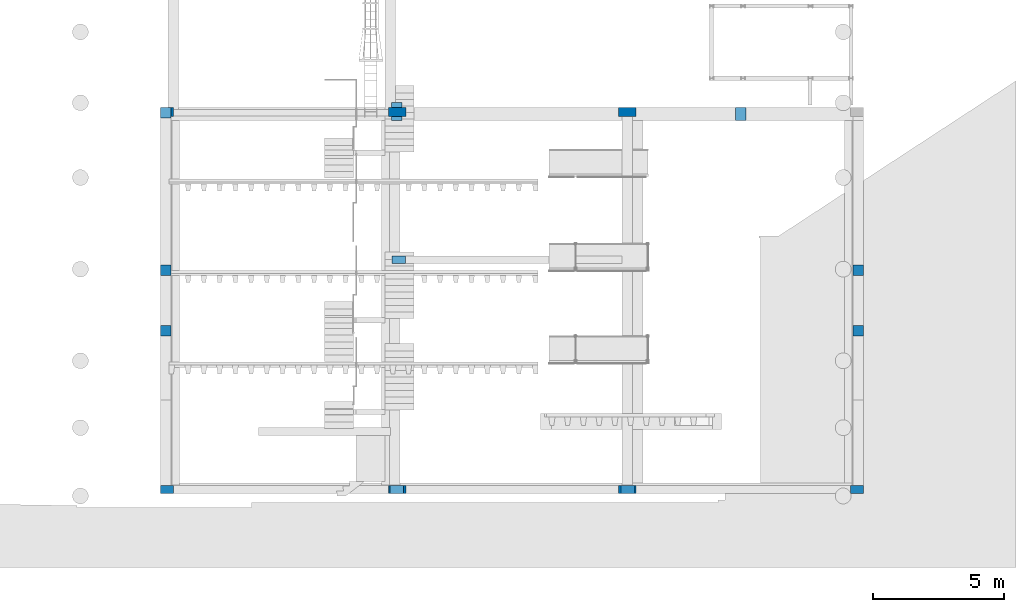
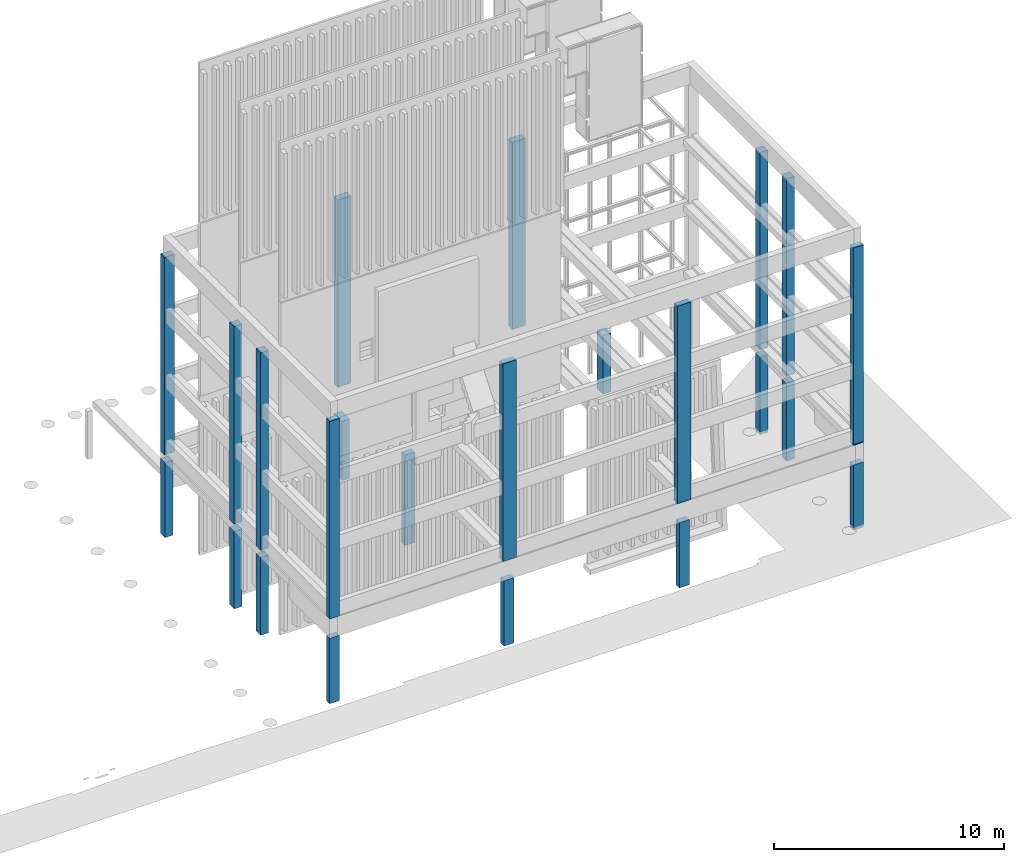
# One storey, part 1 of 15: 25 columns.
"""IFC2X3 building model written with IfcOpenShell, lengths in metres."""

from ifc_helpers import new_model, entity, si_unit, converted_unit, derived_unit, money_unit, direction, frame, frame_2d, origin_with_axes, place, context, subcontext, project, spatial, rectangle, extrude, material, type_object, element, save


model = new_model("IFC2X3")

# Units and contexts
model_context = context("Model", 3, precision=1e-05, world=origin_with_axes(), true_north=direction((0.0, 1.0)))
body_context = subcontext(model_context, "Body", "Model", "MODEL_VIEW", scale=1.0)
ifc_project = project(units=[si_unit("LENGTHUNIT", "METRE"), si_unit("AREAUNIT", "SQUARE_METRE"), si_unit("VOLUMEUNIT", "CUBIC_METRE"), si_unit("ABSORBEDDOSEUNIT", "GRAY"), si_unit("AMOUNTOFSUBSTANCEUNIT", "MOLE"), si_unit("DOSEEQUIVALENTUNIT", "SIEVERT"), si_unit("ELECTRICCAPACITANCEUNIT", "FARAD"), si_unit("ELECTRICCHARGEUNIT", "COULOMB"), si_unit("ELECTRICCONDUCTANCEUNIT", "SIEMENS"), si_unit("ELECTRICCURRENTUNIT", "AMPERE"), si_unit("ELECTRICRESISTANCEUNIT", "OHM"), si_unit("ELECTRICVOLTAGEUNIT", "VOLT"), si_unit("ENERGYUNIT", "JOULE"), si_unit("FORCEUNIT", "NEWTON"), si_unit("FREQUENCYUNIT", "HERTZ"), si_unit("ILLUMINANCEUNIT", "LUX"), si_unit("INDUCTANCEUNIT", "HENRY"), si_unit("LUMINOUSFLUXUNIT", "LUMEN"), si_unit("LUMINOUSINTENSITYUNIT", "CANDELA"), si_unit("MAGNETICFLUXDENSITYUNIT", "TESLA"), si_unit("MAGNETICFLUXUNIT", "WEBER"), si_unit("MASSUNIT", "GRAM"), converted_unit("PLANEANGLEUNIT", "degree", entity("IfcReal", 0.0174532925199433), si_unit("PLANEANGLEUNIT", "RADIAN"), dimensions=[0, 0, 0, 0, 0, 0, 0]), si_unit("POWERUNIT", "WATT"), si_unit("PRESSUREUNIT", "PASCAL"), si_unit("RADIOACTIVITYUNIT", "BECQUEREL"), si_unit("SOLIDANGLEUNIT", "STERADIAN"), si_unit("THERMODYNAMICTEMPERATUREUNIT", "KELVIN"), si_unit("TIMEUNIT", "SECOND"), derived_unit("ACCELERATIONUNIT", [(si_unit("LENGTHUNIT", "METRE"), 1), (si_unit("TIMEUNIT", "SECOND"), -2)]), derived_unit("ANGULARVELOCITYUNIT", [(converted_unit("PLANEANGLEUNIT", "degree", entity("IfcReal", 0.0174532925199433), si_unit("PLANEANGLEUNIT", "RADIAN"), dimensions=[0, 0, 0, 0, 0, 0, 0]), 1), (si_unit("TIMEUNIT", "SECOND"), -1)]), derived_unit("CURVATUREUNIT", [(converted_unit("PLANEANGLEUNIT", "degree", entity("IfcReal", 0.0174532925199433), si_unit("PLANEANGLEUNIT", "RADIAN"), dimensions=[0, 0, 0, 0, 0, 0, 0]), 1), (si_unit("LENGTHUNIT", "METRE"), -1)]), derived_unit("DYNAMICVISCOSITYUNIT", [(si_unit("PRESSUREUNIT", "PASCAL"), 1), (si_unit("TIMEUNIT", "SECOND"), 1)]), derived_unit("HEATFLUXDENSITYUNIT", [(si_unit("POWERUNIT", "WATT"), 1), (si_unit("LENGTHUNIT", "METRE"), -2)]), derived_unit("HEATINGVALUEUNIT", [(si_unit("ENERGYUNIT", "JOULE"), 1), (si_unit("MASSUNIT", "GRAM"), -1)]), derived_unit("INTEGERCOUNTRATEUNIT", [(si_unit("TIMEUNIT", "SECOND"), -1)]), derived_unit("IONCONCENTRATIONUNIT", [(si_unit("MASSUNIT", "GRAM"), 1), (si_unit("VOLUMEUNIT", "CUBIC_METRE"), -1)]), derived_unit("ISOTHERMALMOISTURECAPACITYUNIT", [(si_unit("VOLUMEUNIT", "CUBIC_METRE"), 1), (si_unit("MASSUNIT", "GRAM"), -1)]), derived_unit("KINEMATICVISCOSITYUNIT", [(si_unit("AREAUNIT", "SQUARE_METRE"), 1), (si_unit("TIMEUNIT", "SECOND"), -1)]), derived_unit("LINEARFORCEUNIT", [(si_unit("FORCEUNIT", "NEWTON"), 1), (si_unit("LENGTHUNIT", "METRE"), -1)]), derived_unit("LINEARMOMENTUNIT", [(si_unit("FORCEUNIT", "NEWTON"), 1), (si_unit("LENGTHUNIT", "METRE"), -1)]), derived_unit("LINEARSTIFFNESSUNIT", [(si_unit("FORCEUNIT", "NEWTON"), 1), (si_unit("LENGTHUNIT", "METRE"), -1)]), derived_unit("LINEARVELOCITYUNIT", [(si_unit("LENGTHUNIT", "METRE"), 1), (si_unit("TIMEUNIT", "SECOND"), -1)]), derived_unit("LUMINOUSINTENSITYDISTRIBUTIONUNIT", [(si_unit("LUMINOUSINTENSITYUNIT", "CANDELA"), 1), (si_unit("LUMINOUSFLUXUNIT", "LUMEN"), -1)]), derived_unit("MASSDENSITYUNIT", [(si_unit("MASSUNIT", "GRAM"), 1), (si_unit("VOLUMEUNIT", "CUBIC_METRE"), -1)]), derived_unit("MASSFLOWRATEUNIT", [(si_unit("MASSUNIT", "GRAM"), 1), (si_unit("TIMEUNIT", "SECOND"), -1)]), derived_unit("MASSPERLENGTHUNIT", [(si_unit("MASSUNIT", "GRAM"), 1), (si_unit("LENGTHUNIT", "METRE"), -1)]), derived_unit("MODULUSOFELASTICITYUNIT", [(si_unit("FORCEUNIT", "NEWTON"), 1), (si_unit("AREAUNIT", "SQUARE_METRE"), -1)]), derived_unit("MODULUSOFLINEARSUBGRADEREACTIONUNIT", [(si_unit("FORCEUNIT", "NEWTON"), 1), (si_unit("LENGTHUNIT", "METRE"), -2)]), derived_unit("MODULUSOFROTATIONALSUBGRADEREACTIONUNIT", [(si_unit("FORCEUNIT", "NEWTON"), 1), (si_unit("LENGTHUNIT", "METRE"), 1)]), derived_unit("MODULUSOFSUBGRADEREACTIONUNIT", [(si_unit("FORCEUNIT", "NEWTON"), 1), (si_unit("VOLUMEUNIT", "CUBIC_METRE"), -1)]), derived_unit("MOISTUREDIFFUSIVITYUNIT", [(si_unit("VOLUMEUNIT", "CUBIC_METRE"), 1), (si_unit("TIMEUNIT", "SECOND"), -1)]), derived_unit("MOLECULARWEIGHTUNIT", [(si_unit("MASSUNIT", "GRAM"), 1), (si_unit("AMOUNTOFSUBSTANCEUNIT", "MOLE"), -1)]), derived_unit("PLANARFORCEUNIT", [(si_unit("FORCEUNIT", "NEWTON"), 1), (si_unit("LENGTHUNIT", "METRE"), -2)]), derived_unit("ROTATIONALFREQUENCYUNIT", [(si_unit("TIMEUNIT", "SECOND"), -1)]), derived_unit("ROTATIONALMASSUNIT", [(si_unit("MASSUNIT", "GRAM"), 1), (si_unit("LENGTHUNIT", "METRE"), 2)]), derived_unit("ROTATIONALSTIFFNESSUNIT", [(si_unit("FORCEUNIT", "NEWTON"), 1), (si_unit("LENGTHUNIT", "METRE"), 1), (converted_unit("PLANEANGLEUNIT", "degree", entity("IfcReal", 0.0174532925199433), si_unit("PLANEANGLEUNIT", "RADIAN"), dimensions=[0, 0, 0, 0, 0, 0, 0]), -1)]), derived_unit("SECTIONAREAINTEGRALUNIT", [(si_unit("LENGTHUNIT", "METRE"), 5)]), derived_unit("SECTIONMODULUSUNIT", [(si_unit("LENGTHUNIT", "METRE"), 3)]), derived_unit("SHEARMODULUSUNIT", [(si_unit("FORCEUNIT", "NEWTON"), 1), (si_unit("AREAUNIT", "SQUARE_METRE"), -1)]), derived_unit("SOUNDPOWERUNIT", [(si_unit("ENERGYUNIT", "JOULE"), 1), (si_unit("TIMEUNIT", "SECOND"), -1)]), derived_unit("SPECIFICHEATCAPACITYUNIT", [(si_unit("FORCEUNIT", "NEWTON"), 1), (si_unit("MASSUNIT", "GRAM"), -1), (si_unit("THERMODYNAMICTEMPERATUREUNIT", "KELVIN"), -1)]), derived_unit("TEMPERATUREGRADIENTUNIT", [(si_unit("THERMODYNAMICTEMPERATUREUNIT", "KELVIN"), 1), (si_unit("LENGTHUNIT", "METRE"), -1)]), derived_unit("THERMALADMITTANCEUNIT", [(si_unit("POWERUNIT", "WATT"), 1), (si_unit("AREAUNIT", "SQUARE_METRE"), -1), (si_unit("THERMODYNAMICTEMPERATUREUNIT", "KELVIN"), -1)]), derived_unit("THERMALCONDUCTANCEUNIT", [(si_unit("POWERUNIT", "WATT"), 1), (si_unit("LENGTHUNIT", "METRE"), -1), (si_unit("THERMODYNAMICTEMPERATUREUNIT", "KELVIN"), -1)]), derived_unit("THERMALEXPANSIONCOEFFICIENTUNIT", [(si_unit("THERMODYNAMICTEMPERATUREUNIT", "KELVIN"), -1)]), derived_unit("THERMALRESISTANCEUNIT", [(si_unit("AREAUNIT", "SQUARE_METRE"), 1), (si_unit("POWERUNIT", "WATT"), -1)]), derived_unit("THERMALTRANSMITTANCEUNIT", [(si_unit("POWERUNIT", "WATT"), 1), (si_unit("AREAUNIT", "SQUARE_METRE"), -1), (si_unit("THERMODYNAMICTEMPERATUREUNIT", "KELVIN"), -1)]), derived_unit("TORQUEUNIT", [(si_unit("FORCEUNIT", "NEWTON"), 1), (si_unit("LENGTHUNIT", "METRE"), 1)]), derived_unit("VAPORPERMEABILITYUNIT", [(si_unit("MASSUNIT", "GRAM"), 1), (si_unit("TIMEUNIT", "SECOND"), -1)]), derived_unit("VOLUMETRICFLOWRATEUNIT", [(si_unit("VOLUMEUNIT", "CUBIC_METRE"), 1), (si_unit("TIMEUNIT", "SECOND"), -1)]), derived_unit("WARPINGCONSTANTUNIT", [(si_unit("LENGTHUNIT", "METRE"), 6)]), derived_unit("WARPINGMOMENTUNIT", [(si_unit("FORCEUNIT", "NEWTON"), 1), (si_unit("LENGTHUNIT", "METRE"), 2)]), money_unit("GBP")], contexts=[model_context])

# Site, building, storey
site_placement = place(None, origin_with_axes())
site = spatial("IfcSite", under=ifc_project, at=site_placement, Name="Site", CompositionType="ELEMENT")
building_placement = place(site_placement, origin_with_axes())
building = spatial("IfcBuilding", under=site, at=building_placement, Name="Building01", CompositionType="ELEMENT")
storey_placement = place(building_placement, origin_with_axes())
storey = spatial("IfcBuildingStorey", under=building, at=storey_placement, Name="GF", CompositionType="ELEMENT", Elevation=0.0)

# Columns
ifc_material = material(Name="A_BSUK_Columns_ReinforcedConcrete")
column_type_1 = type_object("IfcColumnType", Name="A-Columns-Concrete", PredefinedType="COLUMN")
column_1_placement = place(storey_placement, frame((0.1, 8.4, -0.145), z_axis=(0.0, 0.0, 1.0), x_axis=(1.0, 0.0, 0.0)))
element("IfcColumn", 1, at=column_1_placement, inside=storey, type_object=column_type_1, material=ifc_material, Name="A-Columns-Concrete", ObjectType="A-Columns-Concrete", context=body_context, shape_type="SweptSolid", body=[
    extrude(rectangle(XDim=0.4, YDim=0.4, at=frame_2d((0.2, 0.2), x_axis=(0.0, 1.0))), origin_with_axes(), (0.0, 0.0, 1.0), 4.115),
])
column_2_placement = place(storey_placement, frame((0.6, 14.45, 14.83), z_axis=(0.0, 0.0, -1.0), x_axis=(0.0, 1.0, 0.0)))
element("IfcColumn", 2, at=column_2_placement, inside=storey, type_object=column_type_1, material=ifc_material, Name="A-Columns-Concrete", ObjectType="A-Columns-Concrete", context=body_context, shape_type="SweptSolid", body=[
    extrude(rectangle(XDim=0.5, YDim=0.35, at=frame_2d((0.175, -0.25), x_axis=(0.0, -1.0))), origin_with_axes(), (0.0, 0.0, 1.0), 10.48),
])
for number, where, z_axis, x_axis, name in (
    (3, (0.1, 6.1, -0.145), (0.0, 0.0, 1.0), (1.0, 0.0, 0.0), "A-Columns-Concrete"),
    (4, (26.48, 6.1, -0.145), (0.0, 0.0, 1.0), (1.0, 0.0, 0.0), "A-Columns-Concrete"),
    (5, (26.48, 8.4, -0.145), (0.0, 0.0, 1.0), (1.0, 0.0, 0.0), "A-Columns-Concrete"),
):
    element("IfcColumn", number, at=place(storey_placement, frame(where, z_axis=z_axis, x_axis=x_axis)), inside=storey, type_object=column_type_1, material=ifc_material, Name=name, ObjectType="A-Columns-Concrete", context=body_context, shape_type="SweptSolid", body=[
        extrude(rectangle(XDim=0.4, YDim=0.4, at=frame_2d((0.2, 0.2), x_axis=(0.0, 1.0))), origin_with_axes(), (0.0, 0.0, 1.0), 4.115),
    ])
column_3_placement = place(storey_placement, frame((0.6, 0.1, 3.32), z_axis=(0.0, 0.0, -1.0), x_axis=(0.0, 1.0, 0.0)))
element("IfcColumn", 6, at=column_3_placement, inside=storey, type_object=column_type_1, material=ifc_material, Name="A-Columns-Concrete", ObjectType="A-Columns-Concrete", context=body_context, shape_type="SweptSolid", body=[
    extrude(rectangle(XDim=0.5, YDim=0.3, at=frame_2d((0.15, -0.25), x_axis=(0.0, -1.0))), origin_with_axes(), (0.0, 0.0, 1.0), 3.465),
])
for number, where, z_axis, x_axis, name in (
    (7, (9.46, 14.8, 4.9), (0.0, 0.0, 1.0), (-1.0, 0.0, 0.0), "A-Columns-Concrete"),
    (8, (18.22, 14.8, 4.9), (0.0, 0.0, 1.0), (-1.0, 0.0, 0.0), "A-Columns-Concrete"),
):
    element("IfcColumn", number, at=place(storey_placement, frame(where, z_axis=z_axis, x_axis=x_axis)), inside=storey, type_object=column_type_1, material=ifc_material, Name=name, ObjectType="A-Columns-Concrete", context=body_context, shape_type="SweptSolid", body=[
        extrude(rectangle(XDim=0.35, YDim=0.67, at=frame_2d((0.335, 0.175), x_axis=(0.0, 1.0))), origin_with_axes(), (0.0, 0.0, 1.0), 9.93),
    ])
for number, where, z_axis, x_axis, name in (
    (9, (18.15, 0.1, 3.32), (0.0, 0.0, -1.0), (0.0, 1.0, 0.0), "A-Columns-Concrete"),
    (10, (9.35, 0.1, 3.32), (0.0, 0.0, -1.0), (0.0, 1.0, 0.0), "A-Columns-Concrete"),
    (11, (26.88, 0.1, 3.32), (0.0, 0.0, -1.0), (0.0, 1.0, 0.0), "A-Columns-Concrete"),
):
    element("IfcColumn", number, at=place(storey_placement, frame(where, z_axis=z_axis, x_axis=x_axis)), inside=storey, type_object=column_type_1, material=ifc_material, Name=name, ObjectType="A-Columns-Concrete", context=body_context, shape_type="SweptSolid", body=[
        extrude(rectangle(XDim=0.5, YDim=0.3, at=frame_2d((0.15, -0.25), x_axis=(0.0, -1.0))), origin_with_axes(), (0.0, 0.0, 1.0), 3.465),
    ])
column_4_placement = place(storey_placement, frame((8.903038, 14.299999, 0.0), z_axis=(0.0, 0.0, 1.0), x_axis=(1.0, 0.0, 0.0)))
element("IfcColumn", 12, at=column_4_placement, inside=storey, type_object=column_type_1, material=ifc_material, Name="A-Columns-Concrete", ObjectType="A-Columns-Concrete", context=body_context, shape_type="SweptSolid", body=[
    extrude(rectangle(XDim=0.7, YDim=0.4, at=frame_2d((0.2, 0.35), x_axis=(0.0, 1.0))), origin_with_axes(), (0.0, 0.0, 1.0), 3.135),
])
column_5_placement = place(storey_placement, frame((22.01, 14.3, 0.0), z_axis=(0.0, 0.0, 1.0), x_axis=(1.0, 0.0, 0.0)))
element("IfcColumn", 13, at=column_5_placement, inside=storey, type_object=column_type_1, material=ifc_material, Name="A-Columns-Concrete", ObjectType="A-Columns-Concrete", context=body_context, shape_type="SweptSolid", body=[
    extrude(rectangle(XDim=0.5, YDim=0.4, at=frame_2d((0.2, 0.25), x_axis=(0.0, 1.0))), origin_with_axes(), (0.0, 0.0, 1.0), 3.1),
])
for number, where, z_axis, x_axis, name in (
    (14, (9.46, 0.4, 4.35), (0.0, 0.0, 1.0), (-1.0, 0.0, 0.0), "A-Columns-Concrete"),
    (15, (18.22, 0.4, 4.35), (0.0, 0.0, 1.0), (-1.0, 0.0, 0.0), "A-Columns-Concrete"),
):
    element("IfcColumn", number, at=place(storey_placement, frame(where, z_axis=z_axis, x_axis=x_axis)), inside=storey, type_object=column_type_1, material=ifc_material, Name=name, ObjectType="A-Columns-Concrete", context=body_context, shape_type="SweptSolid", body=[
        extrude(rectangle(XDim=0.3, YDim=0.67, at=frame_2d((0.335, 0.15), x_axis=(0.0, 1.0))), origin_with_axes(), (0.0, 0.0, 1.0), 10.48),
    ])
column_6_placement = place(storey_placement, frame((0.1, 14.4, 0.0), z_axis=(0.0, 0.0, 1.0), x_axis=(1.0, 0.0, 0.0)))
element("IfcColumn", 16, at=column_6_placement, inside=storey, type_object=column_type_1, material=ifc_material, Name="A-Columns-Concrete", ObjectType="A-Columns-Concrete", context=body_context, shape_type="SweptSolid", body=[
    extrude(rectangle(XDim=0.4, YDim=0.4, at=frame_2d((0.2, 0.2), x_axis=(0.0, 1.0))), origin_with_axes(), (0.0, 0.0, 1.0), 3.97),
])
placement = place(storey_placement, frame((26.88, 0.1, 14.83), z_axis=(0.0, 0.0, -1.0), x_axis=(0.0, 1.0, 0.0)))
element("IfcColumn", 17, at=placement, inside=storey, type_object=column_type_1, material=ifc_material, Name="A-Columns-Concrete", ObjectType="A-Columns-Concrete", context=body_context, shape_type="SweptSolid", body=[
    extrude(rectangle(XDim=0.5, YDim=0.3, at=frame_2d((0.15, -0.25), x_axis=(0.0, -1.0))), origin_with_axes(), (0.0, 0.0, 1.0), 10.48),
])
column_8_placement = place(storey_placement, frame((0.6, 0.1, 14.83), z_axis=(0.0, 0.0, -1.0), x_axis=(0.0, 1.0, 0.0)))
element("IfcColumn", 18, at=column_8_placement, inside=storey, type_object=column_type_1, material=ifc_material, Name="A-Columns-Concrete", ObjectType="A-Columns-Concrete", context=body_context, shape_type="SweptSolid", body=[
    extrude(rectangle(XDim=0.5, YDim=0.3, at=frame_2d((0.15, -0.25), x_axis=(0.0, -1.0))), origin_with_axes(), (0.0, 0.0, 1.0), 10.48),
])
for number, where, z_axis, x_axis, name in (
    (19, (0.1, 6.1, 4.35), (0.0, 0.0, 1.0), (1.0, 0.0, 0.0), "A-Columns-Concrete"),
    (20, (0.1, 8.4, 4.35), (0.0, 0.0, 1.0), (1.0, 0.0, 0.0), "A-Columns-Concrete"),
    (21, (26.48, 6.1, 4.35), (0.0, 0.0, 1.0), (1.0, 0.0, 0.0), "A-Columns-Concrete"),
    (22, (26.48, 8.4, 4.35), (0.0, 0.0, 1.0), (1.0, 0.0, 0.0), "A-Columns-Concrete"),
):
    element("IfcColumn", number, at=place(storey_placement, frame(where, z_axis=z_axis, x_axis=x_axis)), inside=storey, type_object=column_type_1, material=ifc_material, Name=name, ObjectType="A-Columns-Concrete", context=body_context, shape_type="SweptSolid", body=[
        extrude(rectangle(XDim=0.4, YDim=0.4, at=frame_2d((0.2, 0.2), x_axis=(0.0, 1.0))), origin_with_axes(), (0.0, 0.0, 1.0), 10.48),
    ])
column_9_placement = place(storey_placement, frame((8.925, 9.147854, -0.145), z_axis=(0.0, 0.0, 1.0), x_axis=(0.0, -1.0, 0.0)))
element("IfcColumn", 23, at=column_9_placement, inside=storey, type_object=column_type_1, material=ifc_material, Name="A-Columns-Concrete", ObjectType="A-Columns-Concrete", context=body_context, shape_type="SweptSolid", body=[
    extrude(rectangle(XDim=0.5, YDim=0.3, at=frame_2d((0.15, 0.25), x_axis=(0.0, 1.0))), origin_with_axes(), (0.0, 0.0, 1.0), 4.795),
])
column_type_2 = type_object("IfcColumnType", Name="A-Columns:A_BSUK_Columns_ReinforcedConcrete", PredefinedType="NOTDEFINED")
column_10_placement = place(storey_placement, frame((18.22, 0.4, 4.4), z_axis=(0.0, 0.0, 1.0), x_axis=(-1.0, 0.0, 0.0)))
element("IfcColumn", 24, at=column_10_placement, inside=storey, type_object=column_type_2, material=ifc_material, Name="A-Columns--A_BSUK_Columns_ReinforcedConcrete", ObjectType="A-Columns:A_BSUK_Columns_ReinforcedConcrete", context=body_context, shape_type="SweptSolid", body=[
    extrude(rectangle(XDim=0.3, YDim=0.67, at=frame_2d((0.335, 0.15), x_axis=(0.0, 1.0))), origin_with_axes(), (0.0, 0.0, 1.0), 10.43),
])
element("IfcColumn", 25, at=placement, inside=storey, type_object=column_type_2, material=ifc_material, Name="A-Columns--A_BSUK_Columns_ReinforcedConcrete", ObjectType="A-Columns:A_BSUK_Columns_ReinforcedConcrete", context=body_context, shape_type="SweptSolid", body=[
    extrude(rectangle(XDim=0.5, YDim=0.3, at=frame_2d((0.15, -0.25), x_axis=(0.0, -1.0))), origin_with_axes(), (0.0, 0.0, 1.0), 10.43),
])

save(model, "model.ifc")
